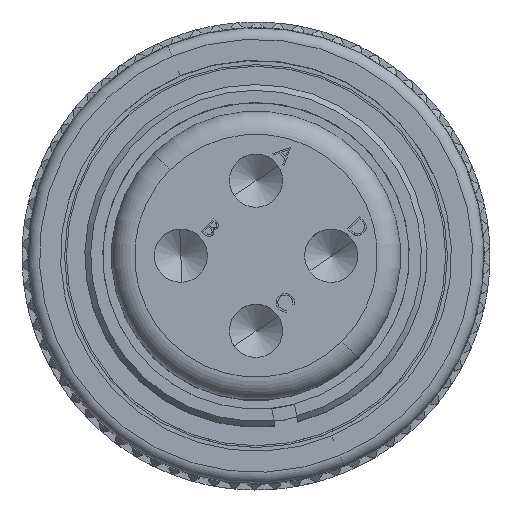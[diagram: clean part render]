
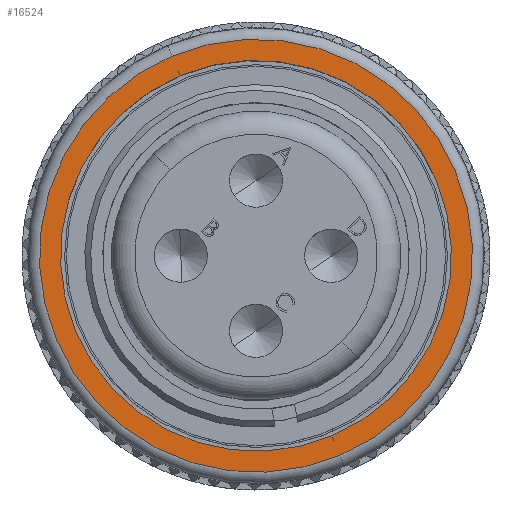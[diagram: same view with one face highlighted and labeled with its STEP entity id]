
A CAD part, top view. The second image highlights one B-rep face of the part: STEP entity #16524.
In plain terms, the highlighted planar face has unit normal (0, 0, 1).
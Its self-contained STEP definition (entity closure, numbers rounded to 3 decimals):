
#373 = EDGE_LOOP ( 'NONE', ( #7258, #49725 ) ) ;
#1201 = AXIS2_PLACEMENT_3D ( 'NONE', #10479, #25531, #40577 ) ;
#1566 = AXIS2_PLACEMENT_3D ( 'NONE', #62233, #41732, #9587 ) ;
#1959 = EDGE_CURVE ( 'NONE', #39308, #41756, #40697, .T. ) ;
#2480 = DIRECTION ( 'NONE',  ( -0.388, 0.922, 0. ) ) ;
#2599 = DIRECTION ( 'NONE',  ( -0.388, 0.922, 0. ) ) ;
#3418 = AXIS2_PLACEMENT_3D ( 'NONE', #45089, #19117, #24533 ) ;
#4007 = FACE_OUTER_BOUND ( 'NONE', #63620, .T. ) ;
#7258 = ORIENTED_EDGE ( 'NONE', *, *, #41084, .T. ) ;
#7881 = VERTEX_POINT ( 'NONE', #65870 ) ;
#9120 = DIRECTION ( 'NONE',  ( 0., 0., 1. ) ) ;
#9587 = DIRECTION ( 'NONE',  ( -0.388, 0.922, 0. ) ) ;
#10479 = CARTESIAN_POINT ( 'NONE',  ( 0., 0., 19.2 ) ) ;
#10879 = ORIENTED_EDGE ( 'NONE', *, *, #38664, .T. ) ;
#16524 = ADVANCED_FACE ( 'NONE', ( #4007, #34818 ), #19805, .F. ) ;
#19117 = DIRECTION ( 'NONE',  ( 0., 0., -1. ) ) ;
#19805 = PLANE ( 'NONE',  #3418 ) ;
#24533 = DIRECTION ( 'NONE',  ( -0.388, 0.922, 0. ) ) ;
#25531 = DIRECTION ( 'NONE',  ( 0., 0., 1. ) ) ;
#28512 = CARTESIAN_POINT ( 'NONE',  ( 0., 0., 19.2 ) ) ;
#30896 = CARTESIAN_POINT ( 'NONE',  ( -7.256, 17.262, 19.2 ) ) ;
#34818 = FACE_BOUND ( 'NONE', #373, .T. ) ;
#38495 = VERTEX_POINT ( 'NONE', #66015 ) ;
#38650 = CIRCLE ( 'NONE', #44141, 16.9 ) ;
#38664 = EDGE_CURVE ( 'NONE', #41756, #39308, #65610, .T. ) ;
#39308 = VERTEX_POINT ( 'NONE', #67403 ) ;
#40577 = DIRECTION ( 'NONE',  ( -0.388, 0.922, 0. ) ) ;
#40697 = CIRCLE ( 'NONE', #59406, 18.725 ) ;
#41084 = EDGE_CURVE ( 'NONE', #7881, #38495, #38650, .T. ) ;
#41283 = EDGE_CURVE ( 'NONE', #38495, #7881, #65964, .T. ) ;
#41732 = DIRECTION ( 'NONE',  ( 0., 0., -1. ) ) ;
#41756 = VERTEX_POINT ( 'NONE', #30896 ) ;
#44141 = AXIS2_PLACEMENT_3D ( 'NONE', #28512, #49360, #2480 ) ;
#45089 = CARTESIAN_POINT ( 'NONE',  ( 0., 0., 19.2 ) ) ;
#45283 = ORIENTED_EDGE ( 'NONE', *, *, #1959, .T. ) ;
#49360 = DIRECTION ( 'NONE',  ( 0., 0., -1. ) ) ;
#49725 = ORIENTED_EDGE ( 'NONE', *, *, #41283, .T. ) ;
#59406 = AXIS2_PLACEMENT_3D ( 'NONE', #60432, #9120, #2599 ) ;
#60432 = CARTESIAN_POINT ( 'NONE',  ( 0., 0., 19.2 ) ) ;
#62233 = CARTESIAN_POINT ( 'NONE',  ( 0., 0., 19.2 ) ) ;
#63620 = EDGE_LOOP ( 'NONE', ( #10879, #45283 ) ) ;
#65610 = CIRCLE ( 'NONE', #1201, 18.725 ) ;
#65870 = CARTESIAN_POINT ( 'NONE',  ( -6.549, 15.579, 19.2 ) ) ;
#65964 = CIRCLE ( 'NONE', #1566, 16.9 ) ;
#66015 = CARTESIAN_POINT ( 'NONE',  ( 6.549, -15.579, 19.2 ) ) ;
#67403 = CARTESIAN_POINT ( 'NONE',  ( 7.256, -17.262, 19.2 ) ) ;
